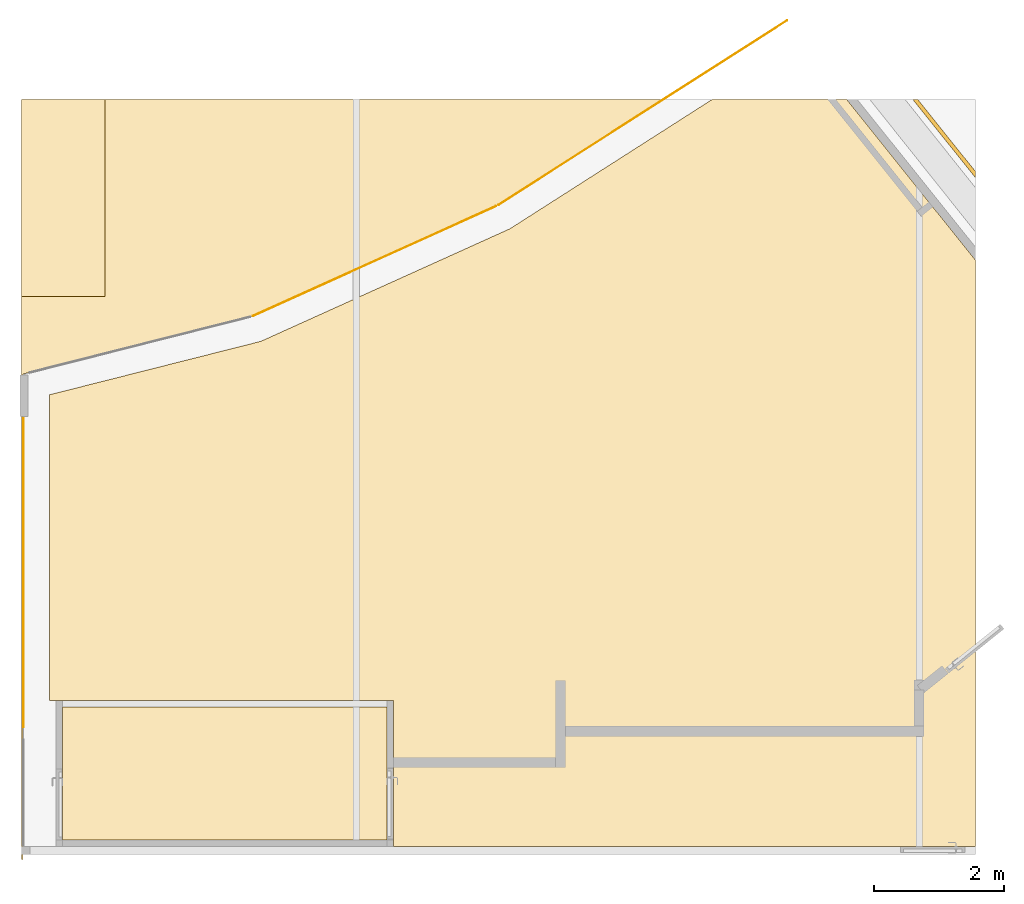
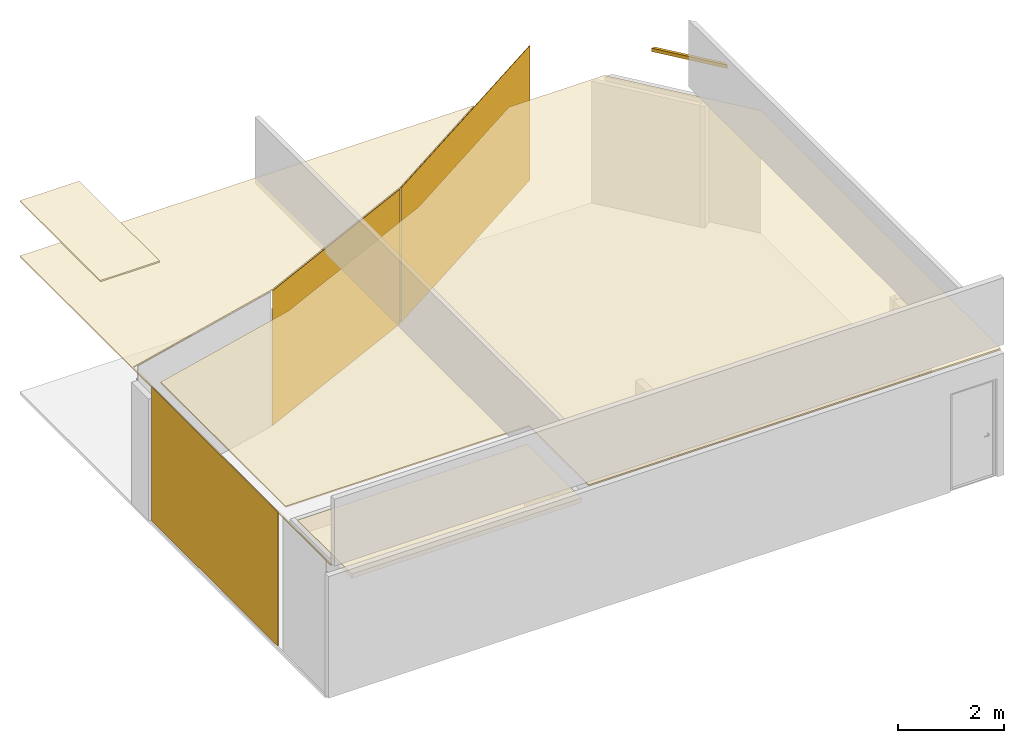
# One storey, part 6 of 7: 5 coverings, 3 doors.
"""IFC2X3 building model written with IfcOpenShell, lengths in millimetres."""

import ifcopenshell
import ifcopenshell.guid

model = None  # the IFC model being written
_history = None  # IfcOwnerHistory: only IFC2X3 demands one
_inside = {}  # id of a spatial element -> (the spatial element, [elements in it])
_under = {}  # id of a project, library or spatial element -> (it, [spatial elements below it])
_declared = {}  # id of a project -> (the project, [libraries it declares])
_typed = {}  # id of a type object -> (the type object, [elements of that type])
_made_of = {}  # id of a material, layer set ... -> (it, [elements and type objects made of it])


def new_model(schema):
    """Start an empty IFC model of exactly this schema.

    Asked for "IFC4X3", IfcOpenShell would pick the latest addendum, in which some entities
    have other attributes; the version numbers below select the first issue.
    IFC2X3 requires an IfcOwnerHistory on every rooted entity: one is made here for all.
    """
    global model, _history
    if schema == "IFC4X3":
        model = ifcopenshell.file(schema_version=(4, 3, 0, 0))
    else:
        model = ifcopenshell.file(schema=schema)
    _inside.clear()
    _under.clear()
    _declared.clear()
    _typed.clear()
    _made_of.clear()
    _history = None
    if model.schema == "IFC2X3":
        org = make("IfcOrganization", Name="unknown")
        user = make(
            "IfcPersonAndOrganization",
            ThePerson=make("IfcPerson", FamilyName="unknown"),
            TheOrganization=org,
        )
        app = make(
            "IfcApplication",
            ApplicationDeveloper=org,
            Version="unknown",
            ApplicationFullName="unknown",
            ApplicationIdentifier="unknown",
        )
        _history = make(
            "IfcOwnerHistory",
            OwningUser=user,
            OwningApplication=app,
            ChangeAction="ADDED",
            CreationDate=0,
        )
    return model


def make(cls, **values):
    """One entity of the class cls with the attributes given. An attribute that is None is left unset."""
    return model.create_entity(
        cls, **{name: value for name, value in values.items() if value is not None}
    )


def entity(cls, *values):
    """Any entity or typed value of the class cls, its attributes in the order of the schema. None: left unset."""
    e = model.create_entity(cls)
    for i, value in enumerate(values):
        if value is not None:
            e[i] = value
    return e


def rooted(cls, **values):
    """An entity with a GlobalId (a new one), such as an element, a storey or a relation."""
    return make(cls, GlobalId=ifcopenshell.guid.new(), OwnerHistory=_history, **values)


def si_unit(unit_type, name, prefix=None):
    """IfcSIUnit, for example si_unit("LENGTHUNIT", "METRE", prefix="MILLI")."""
    return make("IfcSIUnit", UnitType=unit_type, Prefix=prefix, Name=name)


def converted_unit(unit_type, name, factor, base, dimensions=None, offset=None):
    """IfcConversionBasedUnit, such as the inch: factor (a typed value) times the base unit."""
    return make(
        "IfcConversionBasedUnit"
        if offset is None
        else "IfcConversionBasedUnitWithOffset",
        ConversionOffset=offset,
        Dimensions=None
        if dimensions is None
        else entity("IfcDimensionalExponents", *dimensions),
        UnitType=unit_type,
        Name=name,
        ConversionFactor=make(
            "IfcMeasureWithUnit", ValueComponent=factor, UnitComponent=base
        ),
    )


def derived_unit(unit_type, elements):
    """IfcDerivedUnit: a product of units, each with its exponent."""
    return make(
        "IfcDerivedUnit",
        Elements=[
            make("IfcDerivedUnitElement", Unit=unit, Exponent=power)
            for unit, power in elements
        ],
        UnitType=unit_type,
    )


def assignment(units):
    """IfcUnitAssignment: the units of a project."""
    return None if units is None else make("IfcUnitAssignment", Units=units)


def point(xyz):
    """IfcCartesianPoint."""
    return None if xyz is None else make("IfcCartesianPoint", Coordinates=xyz)


def direction(xyz):
    """IfcDirection."""
    return None if xyz is None else make("IfcDirection", DirectionRatios=xyz)


def frame(location, z_axis=None, x_axis=None):
    """IfcAxis2Placement3D, a coordinate frame: its origin and axes. An axis left out is left unset."""
    return make(
        "IfcAxis2Placement3D",
        Location=point(location),
        Axis=direction(z_axis),
        RefDirection=direction(x_axis),
    )


def frame_2d(location, x_axis=None):
    """IfcAxis2Placement2D, a coordinate frame in the plane: its origin and x axis."""
    return make(
        "IfcAxis2Placement2D", Location=point(location), RefDirection=direction(x_axis)
    )


def origin():
    """The frame at (0, 0, 0) with its axes left unset."""
    return frame((0.0, 0.0, 0.0))


def origin_with_axes():
    """The frame at (0, 0, 0) with the z axis (0, 0, 1) and the x axis (1, 0, 0) written out."""
    return frame((0.0, 0.0, 0.0), z_axis=(0.0, 0.0, 1.0), x_axis=(1.0, 0.0, 0.0))


def place(relative_to, where):
    """IfcLocalPlacement: puts the frame where relative to a parent placement (None: the world)."""
    return make(
        "IfcLocalPlacement", PlacementRelTo=relative_to, RelativePlacement=where
    )


def context(
    kind, dimensions, precision=None, world=None, true_north=None, identifier=None
):
    """IfcGeometricRepresentationContext, for example the 3D "Model" context."""
    return make(
        "IfcGeometricRepresentationContext",
        ContextIdentifier=identifier,
        ContextType=kind,
        CoordinateSpaceDimension=dimensions,
        Precision=precision,
        WorldCoordinateSystem=world,
        TrueNorth=true_north,
    )


def subcontext(parent, identifier, kind, view, scale=None):
    """IfcGeometricRepresentationSubContext, for example "Body" below "Model"."""
    return make(
        "IfcGeometricRepresentationSubContext",
        ContextIdentifier=identifier,
        ContextType=kind,
        ParentContext=parent,
        TargetScale=scale,
        TargetView=view,
    )


def project(units=None, contexts=None):
    """IfcProject with its units and contexts."""
    return rooted(
        "IfcProject",
        Name="project",
        RepresentationContexts=contexts,
        UnitsInContext=assignment(units),
    )


def spatial(cls, under=None, at=None, **own):
    """A site, building, storey or space (cls), placed at a placement, below another one or the project."""
    s = rooted(cls, ObjectPlacement=at, **own)
    if under is not None:
        _under.setdefault(under.id(), (under, []))[1].append(s)
    return s


def profile(cls, at=None, kind="AREA", **sizes):
    """A parametric profile (cls). Its sizes go by their IFC names, for example OverallWidth=200.0."""
    return make(cls, ProfileType=kind, Position=at, **sizes)


def rectangle(**sizes):
    """IfcRectangleProfileDef."""
    return profile("IfcRectangleProfileDef", **sizes)


def extrude(swept, where, along, depth):
    """IfcExtrudedAreaSolid: the profile swept, set in the frame where, extruded along a direction by depth."""
    return make(
        "IfcExtrudedAreaSolid",
        SweptArea=swept,
        Position=where,
        ExtrudedDirection=direction(along),
        Depth=depth,
    )


def faces_of(points, faces, orient=None, outer=None):
    """IfcFace entities. A face is a list of loops; a loop is a list of indices into points, from 0.

    orient and outer hold one flag for each loop. By default every Orientation is true, the
    first loop of a face is its IfcFaceOuterBound and the others are IfcFaceBound.
    """
    made = []
    for i, loops in enumerate(faces):
        bounds = []
        for j, loop in enumerate(loops):
            is_outer = j == 0 if outer is None else outer[i][j]
            bounds.append(
                make(
                    "IfcFaceOuterBound" if is_outer else "IfcFaceBound",
                    Bound=make("IfcPolyLoop", Polygon=[points[k] for k in loop]),
                    Orientation=True if orient is None else orient[i][j],
                )
            )
        made.append(make("IfcFace", Bounds=bounds))
    return made


def faceted_brep(points, faces, orient=None, outer=None, voids=None):
    """IfcFacetedBrep: a solid bounded by flat faces; with voids (closed shells), ...WithVoids."""
    shared = [point(p) for p in points]
    hull = make("IfcClosedShell", CfsFaces=faces_of(shared, faces, orient, outer))
    if voids is None:
        return make("IfcFacetedBrep", Outer=hull)
    return make(
        "IfcFacetedBrepWithVoids",
        Outer=hull,
        Voids=[
            make(cls, CfsFaces=faces_of(shared, fs, o, b)) for cls, fs, o, b in voids
        ],
    )


def shape(context_of_items, identifier, shape_type, items):
    """IfcShapeRepresentation: the items that make up one representation, for example the "Body"."""
    return make(
        "IfcShapeRepresentation",
        ContextOfItems=context_of_items,
        RepresentationIdentifier=identifier,
        RepresentationType=shape_type,
        Items=items,
    )


def source(mapping_origin, context_of_items, identifier, shape_type, items):
    """IfcRepresentationMap: a shape defined once, which mapped items show again and again."""
    return make(
        "IfcRepresentationMap",
        MappingOrigin=mapping_origin,
        MappedRepresentation=shape(context_of_items, identifier, shape_type, items),
    )


def transform(
    local_origin,
    x_axis=None,
    y_axis=None,
    z_axis=None,
    scale=None,
    scale2=None,
    scale3=None,
    uniform=True,
):
    """IfcCartesianTransformationOperator3D, or its non-uniform kind. x_axis, y_axis, z_axis: its Axis1, 2, 3."""
    if uniform:
        return make(
            "IfcCartesianTransformationOperator3D",
            Axis1=direction(x_axis),
            Axis2=direction(y_axis),
            LocalOrigin=point(local_origin),
            Scale=scale,
            Axis3=direction(z_axis),
        )
    return make(
        "IfcCartesianTransformationOperator3DnonUniform",
        Axis1=direction(x_axis),
        Axis2=direction(y_axis),
        LocalOrigin=point(local_origin),
        Scale=scale,
        Axis3=direction(z_axis),
        Scale2=scale2,
        Scale3=scale3,
    )


def mapped(mapping_source, mapping_target):
    """IfcMappedItem: shows the shape of a source again, moved by a transform."""
    return make(
        "IfcMappedItem", MappingSource=mapping_source, MappingTarget=mapping_target
    )


def material(Name=None, Category=None):
    """IfcMaterial."""
    return make("IfcMaterial", Name=Name, Category=Category)


def layer(
    of_material, thickness, ventilated=None, Name=None, Category=None, Priority=None
):
    """IfcMaterialLayer: one layer of a wall or slab, of a material (None: an air gap)."""
    return make(
        "IfcMaterialLayer",
        Material=of_material,
        LayerThickness=thickness,
        IsVentilated=ventilated,
        Name=Name,
        Category=Category,
        Priority=Priority,
    )


def layer_set(layers, Name=None):
    """IfcMaterialLayerSet."""
    return make("IfcMaterialLayerSet", MaterialLayers=layers, LayerSetName=Name)


def layer_usage(for_layer_set, set_direction, sense, offset, extent=None):
    """IfcMaterialLayerSetUsage: how a layer set lies in its element."""
    return make(
        "IfcMaterialLayerSetUsage",
        ForLayerSet=for_layer_set,
        LayerSetDirection=set_direction,
        DirectionSense=sense,
        OffsetFromReferenceLine=offset,
        ReferenceExtent=extent,
    )


def made_of(thing, what):
    """Note that an element or type object is made of a material, layer set ...; save() writes the relation."""
    if what is not None:
        _made_of.setdefault(what.id(), (what, []))[1].append(thing)
    return thing


def type_object(cls, material=None, **own):
    """A type object (cls), such as IfcWallType, which elements share."""
    return made_of(rooted(cls, **own), material)


def element(
    cls,
    number,
    at=None,
    inside=None,
    cuts=None,
    type_object=None,
    material=None,
    context=None,
    identifier="Body",
    shape_type=None,
    held_by="IfcProductDefinitionShape",
    body=None,
    shapes=None,
    **own,
):
    """One element of the class cls, such as IfcWall. Its Tag is "e" and its number.

    at: its placement. inside: the storey or other place that contains it. cuts: it is an
    opening in that element (IfcRelVoidsElement). A single representation is given by context,
    identifier, shape_type and body (its items); several are given by shapes. held_by: the class
    of the entity that holds the representations. save() writes the other relations.
    """
    e = rooted(cls, Tag="e%d" % number, ObjectPlacement=at, **own)
    if body is not None:
        shapes = [shape(context, identifier, shape_type, body)]
    if shapes is not None:
        e.Representation = make(held_by, Representations=shapes)
    if inside is not None:
        _inside.setdefault(inside.id(), (inside, []))[1].append(e)
    if cuts is not None:
        rooted(
            "IfcRelVoidsElement", RelatingBuildingElement=cuts, RelatedOpeningElement=e
        )
    if type_object is not None:
        _typed.setdefault(type_object.id(), (type_object, []))[1].append(e)
    return made_of(e, material)


def aggregate(whole, parts):
    """IfcRelAggregates: a whole, such as a stair, and the parts it consists of."""
    return rooted("IfcRelAggregates", RelatingObject=whole, RelatedObjects=parts)


def save(model, path):
    """Write the relations noted so far, then the file.

    IfcRelAggregates (storeys below a building ...), IfcRelContainedInSpatialStructure (elements
    in a storey), IfcRelDefinesByType, IfcRelAssociatesMaterial and IfcRelDeclares: one each for
    every whole, place, type object, material and project.
    """
    for whole, parts in _under.values():
        aggregate(whole, parts)
    for where, things in _inside.values():
        rooted(
            "IfcRelContainedInSpatialStructure",
            RelatedElements=things,
            RelatingStructure=where,
        )
    for kind, things in _typed.values():
        rooted("IfcRelDefinesByType", RelatedObjects=things, RelatingType=kind)
    for what, things in _made_of.values():
        rooted("IfcRelAssociatesMaterial", RelatedObjects=things, RelatingMaterial=what)
    for by, libraries in _declared.values():
        rooted("IfcRelDeclares", RelatingContext=by, RelatedDefinitions=libraries)
    model.write(path)


model = new_model("IFC2X3")

# Units and contexts
model_context = context("Model", 3, precision=0.01, world=frame((0.0, 4.29681676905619e-09, 0.0)), true_north=direction((4.01073788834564e-13, 1.0)))
plan_context = context("Plan", 3, precision=0.01, world=frame((0.0, 4.29681676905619e-09, 0.0)), true_north=direction((4.01073788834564e-13, 1.0)))
body_context = subcontext(model_context, "Body", "Model", "MODEL_VIEW")
ifc_project = project(units=[converted_unit("PLANEANGLEUNIT", "DEGREE", entity("IfcPositiveLengthMeasure", 0.0174532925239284), si_unit("PLANEANGLEUNIT", "RADIAN"), dimensions=[0, 0, 0, 0, 0, 0, 0]), si_unit("AREAUNIT", "SQUARE_METRE"), si_unit("LENGTHUNIT", "METRE", prefix="MILLI"), si_unit("MASSUNIT", "GRAM", prefix="KILO"), si_unit("POWERUNIT", "WATT"), si_unit("PRESSUREUNIT", "PASCAL", prefix="KILO"), si_unit("FORCEUNIT", "NEWTON", prefix="KILO"), si_unit("ELECTRICVOLTAGEUNIT", "VOLT"), si_unit("ELECTRICCURRENTUNIT", "AMPERE"), si_unit("THERMODYNAMICTEMPERATUREUNIT", "DEGREE_CELSIUS"), si_unit("TIMEUNIT", "SECOND"), si_unit("VOLUMEUNIT", "CUBIC_METRE"), derived_unit("LINEARVELOCITYUNIT", [(si_unit("LENGTHUNIT", "METRE"), 1), (si_unit("TIMEUNIT", "SECOND"), -1)]), derived_unit("VOLUMETRICFLOWRATEUNIT", [(si_unit("VOLUMEUNIT", "CUBIC_METRE"), 1), (si_unit("TIMEUNIT", "SECOND"), -1)]), derived_unit("THERMALTRANSMITTANCEUNIT", [(si_unit("POWERUNIT", "WATT"), 1), (si_unit("THERMODYNAMICTEMPERATUREUNIT", "KELVIN"), -1), (si_unit("AREAUNIT", "SQUARE_METRE"), -1)]), derived_unit("SOUNDPRESSUREUNIT", [(si_unit("PRESSUREUNIT", "PASCAL"), 1)])], contexts=[model_context, plan_context])

# Site, building, storey
site_placement = place(None, origin_with_axes())
site = spatial("IfcSite", under=ifc_project, at=site_placement, Name="ENGM", CompositionType="ELEMENT")
building_placement = place(site_placement, origin_with_axes())
building = spatial("IfcBuilding", under=site, at=building_placement, Name="TS", CompositionType="ELEMENT")
storey_placement = place(building_placement, frame((0.0, 0.0, 210900.0), z_axis=(0.0, 0.0, 1.0), x_axis=(1.0, 0.0, 0.0)))
storey = spatial("IfcBuildingStorey", under=building, at=storey_placement, Name="Nivå F", CompositionType="ELEMENT", Elevation=210900.0)

# Doors
ifc_material_1 = material(Name="NO_Aluminium")
door_style_1 = type_object("IfcDoorStyle", Name="A200 - Rulleport:A233 - RY_AAO - 4800 x 3100 mm", ConstructionType="NOTDEFINED", OperationType="NOTDEFINED", ParameterTakesPrecedence=False, Sizeable=False, material=ifc_material_1)
shared_shape_1 = source(origin(), body_context, "Body", "SweptSolid", [
    extrude(rectangle(XDim=4770.0, YDim=10.0, at=frame_2d((0.0, -8.88178419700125e-16), x_axis=(1.0, 0.0))), frame((2400.0, -5.0, 0.0), z_axis=(0.0, 0.0, 1.0), x_axis=(-1.0, 0.0, 0.0)), (0.0, 0.0, 1.0), 3100.0),
])
door_1_placement = place(storey_placement, frame((714474.98749998, 441319.443749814, 0.0), z_axis=(0.0, 0.0, 1.0), x_axis=(0.0, -1.0, 0.0)))
element("IfcDoor", 1, at=door_1_placement, inside=storey, type_object=door_style_1, material=ifc_material_1, Name="A200 - Rulleport:A233 - RY_AAO - 4800 x 3100 mm", ObjectType="A200 - Rulleport:A233 - RY_AAO - 4800 x 3100 mm", OverallHeight=3440.57232057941, OverallWidth=4800.00000000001, context=body_context, shape_type="MappedRepresentation", body=[
    mapped(shared_shape_1, transform((0.0, 0.0, 0.0), scale=1.0)),
])
door_style_2 = type_object("IfcDoorStyle", Name="A200 - Rulleport:A233 - RY_AAO - 4140 x 3100 mm", ConstructionType="NOTDEFINED", OperationType="NOTDEFINED", ParameterTakesPrecedence=False, Sizeable=False, material=ifc_material_1)
shared_shape_2 = source(origin(), body_context, "Body", "SweptSolid", [
    extrude(rectangle(XDim=4110.0, YDim=10.0, at=frame_2d((0.0, -8.88178419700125e-16), x_axis=(1.0, 0.0))), frame((2070.0, -5.0, 0.0), z_axis=(0.0, 0.0, 1.0), x_axis=(-1.0, 0.0, 0.0)), (0.0, 0.0, 1.0), 3100.0),
])
door_2_placement = place(storey_placement, frame((721770.688545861, 444571.488273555, 0.0), z_axis=(0.0, 0.0, 1.0), x_axis=(-0.911260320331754, -0.411830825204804, 0.0)))
element("IfcDoor", 2, at=door_2_placement, inside=storey, type_object=door_style_2, material=ifc_material_1, Name="A200 - Rulleport:A233 - RY_AAO - 4140 x 3100 mm", ObjectType="A200 - Rulleport:A233 - RY_AAO - 4140 x 3100 mm", OverallHeight=3440.57232057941, OverallWidth=4140.00000000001, context=body_context, shape_type="MappedRepresentation", body=[
    mapped(shared_shape_2, transform((0.0, 0.0, 0.0), scale=1.0)),
])
door_style_3 = type_object("IfcDoorStyle", Name="A200 - Rulleport:A233 - RY_AAO - 5315 x 3100 mm", ConstructionType="NOTDEFINED", OperationType="NOTDEFINED", ParameterTakesPrecedence=False, Sizeable=False, material=ifc_material_1)
shared_shape_3 = source(origin(), body_context, "Body", "SweptSolid", [
    extrude(rectangle(XDim=5285.0, YDim=10.0, at=frame_2d((0.0, -8.88178419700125e-16), x_axis=(1.0, 0.0))), frame((2657.5, -5.0, 0.0), z_axis=(0.0, 0.0, 1.0), x_axis=(-1.0, 0.0, 0.0)), (0.0, 0.0, 1.0), 3100.0),
])
door_3_placement = place(storey_placement, frame((726259.679709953, 447439.510475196, 0.0), z_axis=(0.0, 0.0, 1.0), x_axis=(-0.842580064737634, -0.538571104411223, 0.0)))
element("IfcDoor", 3, at=door_3_placement, inside=storey, type_object=door_style_3, material=ifc_material_1, Name="A200 - Rulleport:A233 - RY_AAO - 5315 x 3100 mm", ObjectType="A200 - Rulleport:A233 - RY_AAO - 5315 x 3100 mm", OverallHeight=3440.57232057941, OverallWidth=5315.00000000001, context=body_context, shape_type="MappedRepresentation", body=[
    mapped(shared_shape_3, transform((0.0, 0.0, 0.0), scale=1.0)),
])

# Coverings
covering_type_1 = type_object("IfcCoveringType", Name="Compound Ceiling:A255 - HI-F01", PredefinedType="CEILING")
covering_1_placement = place(storey_placement, origin_with_axes())
element("IfcCovering", 4, at=covering_1_placement, inside=storey, type_object=covering_type_1, Name="Compound Ceiling:A255 - HI-F01", ObjectType="Compound Ceiling:A255 - HI-F01", PredefinedType="CEILING", context=body_context, shape_type="Brep", body=[
    faceted_brep([(720174.98749998, 436951.999999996, 2800.0), (720174.98749998, 436951.999999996, 2829.99999999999), (720174.987499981, 434701.999999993, 2829.99999999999), (720174.987499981, 434701.999999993, 2800.0), (729142.589786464, 434701.999999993, 2829.99999999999), (729142.589786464, 434701.999999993, 2800.0), (729142.589786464, 443739.880358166, 2800.0), (729142.589786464, 443739.880358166, 2829.99999999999), (727162.82727996, 446211.424463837, 2829.99999999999), (727162.82727996, 446211.424463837, 2800.0), (725081.078062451, 446211.424463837, 2800.0), (725081.078062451, 446211.424463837, 2829.99999999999), (721968.74977977, 444222.046657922, 2829.99999999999), (721968.74977977, 444222.046657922, 2800.0), (718129.190012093, 442486.813561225, 2829.99999999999), (718129.190012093, 442486.813561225, 2800.0), (714874.987499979, 441663.696267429, 2829.99999999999), (714874.987499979, 441663.696267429, 2800.0), (714874.987499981, 436951.999999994, 2829.99999999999), (714874.987499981, 436951.999999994, 2800.0)], [[[0, 1, 2, 3]], [[4, 5, 3, 2]], [[6, 7, 8, 9]], [[10, 11, 12, 13]], [[13, 12, 14, 15]], [[15, 14, 16, 17]], [[17, 16, 18, 19]], [[19, 18, 1, 0]], [[5, 6, 9, 10, 13, 15, 17, 19, 0, 3]], [[11, 8, 7, 4, 2, 1, 18, 16, 14, 12]], [[7, 6, 5, 4]], [[11, 10, 9, 8]]], orient=[[False], [False], [False], [False], [False], [False], [False], [False], [False], [False], [False], [False]]),
])
covering_type_2 = type_object("IfcCoveringType", Name="Compound Ceiling:A255 - eksisterende himling perfo. metall kassetter 1200x600", PredefinedType="CEILING")
covering_2_placement = place(storey_placement, origin_with_axes())
element("IfcCovering", 5, at=covering_2_placement, inside=storey, type_object=covering_type_2, Name="Compound Ceiling:A255 - eksisterende himling perfo. metall kassetter 1200x600", ObjectType="Compound Ceiling:A255 - eksisterende himling perfo. metall kassetter 1200x600", PredefinedType="CEILING", context=body_context, shape_type="Brep", body=[
    faceted_brep([(714464.98749998, 434499.007988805, 3100.0), (714464.98749998, 434499.007988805, 3129.99999999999), (714464.98749998, 441982.903228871, 3129.99999999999), (714464.98749998, 441982.903228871, 3100.0), (717993.43808114, 442875.388771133, 3129.99999999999), (717993.43808114, 442875.388771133, 3100.0), (721772.89994057, 444583.461493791, 3129.99999999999), (721772.89994057, 444583.461493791, 3100.0), (724319.804394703, 446211.424463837, 3129.99999999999), (724319.804394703, 446211.424463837, 3100.0), (714437.9875, 446211.424463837, 3100.0), (714437.9875, 434499.007988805, 3100.0), (714437.9875, 434499.007988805, 3129.99999999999), (714437.9875, 446211.424463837, 3129.99999999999)], [[[0, 1, 2, 3]], [[3, 2, 4, 5]], [[5, 4, 6, 7]], [[8, 9, 7, 6]], [[9, 10, 11, 0, 3, 5, 7]], [[1, 12, 13, 8, 6, 4, 2]], [[10, 9, 8, 13]], [[13, 12, 11, 10]], [[12, 1, 0, 11]]], orient=[[False], [False], [False], [False], [False], [False], [False], [False], [False]]),
])
covering_type_3 = type_object("IfcCoveringType", Name="Compound Ceiling:A255 - eksisterende himling perfo. metall kassetter 1800x600", PredefinedType="CEILING")
covering_3_placement = place(storey_placement, origin_with_axes())
element("IfcCovering", 6, at=covering_3_placement, inside=storey, type_object=covering_type_3, Name="Compound Ceiling:A255 - eksisterende himling perfo. metall kassetter 1800x600", ObjectType="Compound Ceiling:A255 - eksisterende himling perfo. metall kassetter 1800x600", PredefinedType="CEILING", context=body_context, shape_type="Brep", body=[
    faceted_brep([(714437.9875, 443179.999999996, 4370.0), (714437.9875, 443179.999999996, 4399.99999999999), (715726.456175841, 443179.999999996, 4399.99999999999), (715726.456175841, 443179.999999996, 4370.0), (715726.456175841, 446211.424463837, 4399.99999999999), (715726.456175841, 446211.424463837, 4370.0), (714437.9875, 446211.424463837, 4370.0), (714437.9875, 446211.424463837, 4399.99999999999)], [[[0, 1, 2, 3]], [[4, 5, 3, 2]], [[5, 6, 0, 3]], [[1, 7, 4, 2]], [[6, 5, 4, 7]], [[7, 1, 0, 6]]], orient=[[False], [False], [False], [False], [False], [False]]),
])
ifc_material_2 = material(Name="Kjøletak")
ifc_layer = layer(ifc_material_2, 100.0)
ifc_layer_set = layer_set([ifc_layer], Name="Compound Ceiling:A255 - KJØLEROMSTAK")
ifc_layer_usage = layer_usage(ifc_layer_set, "AXIS3", "NEGATIVE", 100.0)
covering_type_4 = type_object("IfcCoveringType", Name="Compound Ceiling:A255 - KJØLEROMSTAK", PredefinedType="CEILING")
covering_4_placement = place(storey_placement, origin_with_axes())
element("IfcCovering", 7, at=covering_4_placement, inside=storey, type_object=covering_type_4, material=ifc_layer_usage, Name="Compound Ceiling:A255 - KJØLEROMSTAK", ObjectType="Compound Ceiling:A255 - KJØLEROMSTAK", PredefinedType="CEILING", context=body_context, shape_type="SweptSolid", body=[
    extrude(rectangle(XDim=4999.99999999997, YDim=2050.00000000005, at=frame_2d((6.93489710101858e-11, 5.19776222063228e-10), x_axis=(1.0, 0.0))), frame((717574.987499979, 435826.999999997, 2400.0), z_axis=(0.0, 0.0, 1.0), x_axis=(-1.0, 0.0, 0.0)), (0.0, 0.0, 1.0), 100.000000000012),
])
covering_type_5 = type_object("IfcCoveringType", Name="Compound Ceiling:A255 - HI-Dixons_belysning", PredefinedType="CEILING")
covering_5_placement = place(storey_placement, origin_with_axes())
element("IfcCovering", 8, at=covering_5_placement, inside=storey, type_object=covering_type_5, Name="Compound Ceiling:A255 - HI-Dixons_belysning", ObjectType="Compound Ceiling:A255 - HI-Dixons_belysning", PredefinedType="CEILING", context=body_context, shape_type="Brep", body=[
    faceted_brep([(729142.589786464, 445107.193391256, 3020.0), (729142.589786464, 445107.193391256, 3100.00000000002), (728258.128645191, 446211.424463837, 3100.00000000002), (728258.128645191, 446211.424463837, 3020.0), (728181.25460773, 446211.424463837, 3020.0), (728181.25460773, 446211.424463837, 3100.00000000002), (729142.589786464, 445011.217777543, 3100.00000000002), (729142.589786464, 445011.217777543, 3020.0)], [[[0, 1, 2, 3]], [[4, 5, 6, 7]], [[7, 0, 3, 4]], [[1, 6, 5, 2]], [[7, 6, 1, 0]], [[5, 4, 3, 2]]], orient=[[False], [False], [False], [False], [False], [False]]),
])

save(model, "model.ifc")
